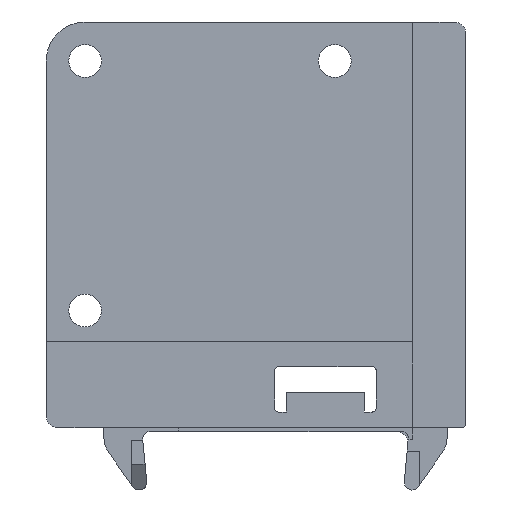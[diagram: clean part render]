
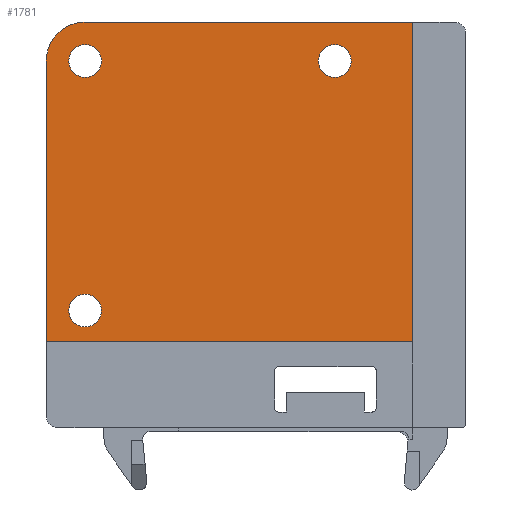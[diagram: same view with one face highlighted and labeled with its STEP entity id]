
A CAD part, front view. The second image highlights one B-rep face of the part: STEP entity #1781.
In plain terms, the highlighted planar face has unit normal (0, -1, 0).
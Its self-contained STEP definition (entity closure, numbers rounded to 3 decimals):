
#148 = VECTOR ( 'NONE', #4676, 1000. ) ;
#154 = VECTOR ( 'NONE', #4671, 1000. ) ;
#162 = VECTOR ( 'NONE', #4674, 1000. ) ;
#437 = CIRCLE ( 'NONE', #497, 2.1 ) ;
#459 = AXIS2_PLACEMENT_3D ( 'NONE', #4658, #4657, #4656 ) ;
#475 = CIRCLE ( 'NONE', #459, 2.1 ) ;
#485 = CIRCLE ( 'NONE', #534, 2.1 ) ;
#486 = VECTOR ( 'NONE', #4666, 1000. ) ;
#497 = AXIS2_PLACEMENT_3D ( 'NONE', #4661, #4660, #4659 ) ;
#530 = CIRCLE ( 'NONE', #548, 5. ) ;
#534 = AXIS2_PLACEMENT_3D ( 'NONE', #4664, #4663, #4662 ) ;
#548 = AXIS2_PLACEMENT_3D ( 'NONE', #4669, #4668, #4667 ) ;
#1202 = CARTESIAN_POINT ( 'NONE',  ( -2.1, 0., -32. ) ) ;
#1207 = CARTESIAN_POINT ( 'NONE',  ( 2.1, 0., -32. ) ) ;
#1209 = CARTESIAN_POINT ( 'NONE',  ( -2.1, 0., 0. ) ) ;
#1210 = CARTESIAN_POINT ( 'NONE',  ( 2.1, 0., 0. ) ) ;
#1211 = CARTESIAN_POINT ( 'NONE',  ( 29.9, 0., 0. ) ) ;
#1213 = CARTESIAN_POINT ( 'NONE',  ( 34.1, 0., 0. ) ) ;
#1262 = CARTESIAN_POINT ( 'NONE',  ( 0., 0., 5. ) ) ;
#1271 = CARTESIAN_POINT ( 'NONE',  ( -5., 0., 0. ) ) ;
#1286 = CARTESIAN_POINT ( 'NONE',  ( 42., 0., 5. ) ) ;
#1291 = CARTESIAN_POINT ( 'NONE',  ( 42., 0., -36. ) ) ;
#1292 = CARTESIAN_POINT ( 'NONE',  ( -5., 0., -36. ) ) ;
#1325 = EDGE_CURVE ( 'NONE', #2095, #2094, #4686, .T. ) ;
#1326 = EDGE_CURVE ( 'NONE', #2097, #2095, #4687, .T. ) ;
#1327 = EDGE_CURVE ( 'NONE', #2090, #2097, #4680, .T. ) ;
#1328 = EDGE_CURVE ( 'NONE', #2099, #2090, #530, .T. ) ;
#1329 = EDGE_CURVE ( 'NONE', #2094, #2099, #4670, .T. ) ;
#1330 = EDGE_CURVE ( 'NONE', #2204, #2203, #485, .T. ) ;
#1331 = EDGE_CURVE ( 'NONE', #2202, #2201, #437, .T. ) ;
#1332 = EDGE_CURVE ( 'NONE', #2208, #2205, #475, .T. ) ;
#1453 = EDGE_CURVE ( 'NONE', #2205, #2208, #3824, .T. ) ;
#1454 = EDGE_CURVE ( 'NONE', #2203, #2204, #3836, .T. ) ;
#1458 = EDGE_CURVE ( 'NONE', #2201, #2202, #3866, .T. ) ;
#1781 = ADVANCED_FACE ( 'NONE', ( #3218, #3227, #3215, #3212 ), #3219, .T. ) ;
#2090 = VERTEX_POINT ( 'NONE', #1262 ) ;
#2094 = VERTEX_POINT ( 'NONE', #1292 ) ;
#2095 = VERTEX_POINT ( 'NONE', #1291 ) ;
#2097 = VERTEX_POINT ( 'NONE', #1286 ) ;
#2099 = VERTEX_POINT ( 'NONE', #1271 ) ;
#2201 = VERTEX_POINT ( 'NONE', #1213 ) ;
#2202 = VERTEX_POINT ( 'NONE', #1211 ) ;
#2203 = VERTEX_POINT ( 'NONE', #1210 ) ;
#2204 = VERTEX_POINT ( 'NONE', #1209 ) ;
#2205 = VERTEX_POINT ( 'NONE', #1207 ) ;
#2208 = VERTEX_POINT ( 'NONE', #1202 ) ;
#2336 = EDGE_LOOP ( 'NONE', ( #2741, #2742 ) ) ;
#2338 = EDGE_LOOP ( 'NONE', ( #2743, #2744 ) ) ;
#2388 = EDGE_LOOP ( 'NONE', ( #2734, #2735, #2737, #2738, #2740 ) ) ;
#2429 = EDGE_LOOP ( 'NONE', ( #2745, #2746 ) ) ;
#2734 = ORIENTED_EDGE ( 'NONE', *, *, #1325, .F. ) ;
#2735 = ORIENTED_EDGE ( 'NONE', *, *, #1326, .F. ) ;
#2737 = ORIENTED_EDGE ( 'NONE', *, *, #1327, .F. ) ;
#2738 = ORIENTED_EDGE ( 'NONE', *, *, #1328, .F. ) ;
#2740 = ORIENTED_EDGE ( 'NONE', *, *, #1329, .F. ) ;
#2741 = ORIENTED_EDGE ( 'NONE', *, *, #1454, .T. ) ;
#2742 = ORIENTED_EDGE ( 'NONE', *, *, #1330, .T. ) ;
#2743 = ORIENTED_EDGE ( 'NONE', *, *, #1458, .T. ) ;
#2744 = ORIENTED_EDGE ( 'NONE', *, *, #1331, .T. ) ;
#2745 = ORIENTED_EDGE ( 'NONE', *, *, #1453, .T. ) ;
#2746 = ORIENTED_EDGE ( 'NONE', *, *, #1332, .T. ) ;
#3211 = DIRECTION ( 'NONE',  ( 1., 0., 0. ) ) ;
#3212 = FACE_BOUND ( 'NONE', #2429, .T. ) ;
#3215 = FACE_BOUND ( 'NONE', #2338, .T. ) ;
#3216 = CARTESIAN_POINT ( 'NONE',  ( 48.3, 0., -46.5 ) ) ;
#3218 = FACE_OUTER_BOUND ( 'NONE', #2388, .T. ) ;
#3219 = PLANE ( 'NONE',  #4234 ) ;
#3223 = DIRECTION ( 'NONE',  ( 0., -1., 0. ) ) ;
#3227 = FACE_BOUND ( 'NONE', #2336, .T. ) ;
#3824 = CIRCLE ( 'NONE', #3851, 2.1 ) ;
#3836 = CIRCLE ( 'NONE', #3896, 2.1 ) ;
#3851 = AXIS2_PLACEMENT_3D ( 'NONE', #4285, #4284, #4283 ) ;
#3866 = CIRCLE ( 'NONE', #3910, 2.1 ) ;
#3896 = AXIS2_PLACEMENT_3D ( 'NONE', #4281, #4280, #4279 ) ;
#3910 = AXIS2_PLACEMENT_3D ( 'NONE', #4269, #4268, #4267 ) ;
#4234 = AXIS2_PLACEMENT_3D ( 'NONE', #3216, #3223, #3211 ) ;
#4267 = DIRECTION ( 'NONE',  ( -1., 0., 0. ) ) ;
#4268 = DIRECTION ( 'NONE',  ( 0., 1., 0. ) ) ;
#4269 = CARTESIAN_POINT ( 'NONE',  ( 32., 0., 0. ) ) ;
#4279 = DIRECTION ( 'NONE',  ( -1., 0., 0. ) ) ;
#4280 = DIRECTION ( 'NONE',  ( 0., 1., 0. ) ) ;
#4281 = CARTESIAN_POINT ( 'NONE',  ( 0., 0., 0. ) ) ;
#4283 = DIRECTION ( 'NONE',  ( -1., 0., 0. ) ) ;
#4284 = DIRECTION ( 'NONE',  ( 0., 1., 0. ) ) ;
#4285 = CARTESIAN_POINT ( 'NONE',  ( 0., 0., -32. ) ) ;
#4656 = DIRECTION ( 'NONE',  ( -1., 0., 0. ) ) ;
#4657 = DIRECTION ( 'NONE',  ( 0., 1., 0. ) ) ;
#4658 = CARTESIAN_POINT ( 'NONE',  ( 0., 0., -32. ) ) ;
#4659 = DIRECTION ( 'NONE',  ( -1., 0., 0. ) ) ;
#4660 = DIRECTION ( 'NONE',  ( 0., 1., 0. ) ) ;
#4661 = CARTESIAN_POINT ( 'NONE',  ( 32., 0., 0. ) ) ;
#4662 = DIRECTION ( 'NONE',  ( -1., 0., 0. ) ) ;
#4663 = DIRECTION ( 'NONE',  ( 0., 1., 0. ) ) ;
#4664 = CARTESIAN_POINT ( 'NONE',  ( 0., 0., 0. ) ) ;
#4666 = DIRECTION ( 'NONE',  ( 0., 0., 1. ) ) ;
#4667 = DIRECTION ( 'NONE',  ( 1., 0., 0. ) ) ;
#4668 = DIRECTION ( 'NONE',  ( 0., 1., 0. ) ) ;
#4669 = CARTESIAN_POINT ( 'NONE',  ( 0., 0., 0. ) ) ;
#4670 = LINE ( 'NONE', #4672, #486 ) ;
#4671 = DIRECTION ( 'NONE',  ( 1., 0., 0. ) ) ;
#4672 = CARTESIAN_POINT ( 'NONE',  ( -5., 0., -45.5 ) ) ;
#4673 = CARTESIAN_POINT ( 'NONE',  ( 47.3, 0., 5. ) ) ;
#4674 = DIRECTION ( 'NONE',  ( 0., 0., -1. ) ) ;
#4675 = CARTESIAN_POINT ( 'NONE',  ( 42., 0., 5. ) ) ;
#4676 = DIRECTION ( 'NONE',  ( -1., 0., 0. ) ) ;
#4677 = CARTESIAN_POINT ( 'NONE',  ( -5., 0., -36. ) ) ;
#4680 = LINE ( 'NONE', #4673, #154 ) ;
#4686 = LINE ( 'NONE', #4677, #148 ) ;
#4687 = LINE ( 'NONE', #4675, #162 ) ;
